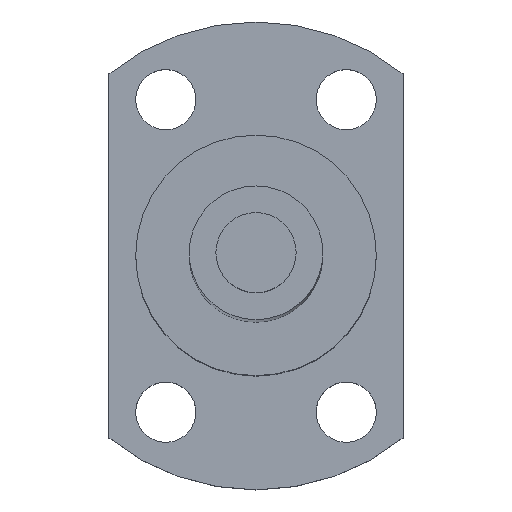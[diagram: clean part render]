
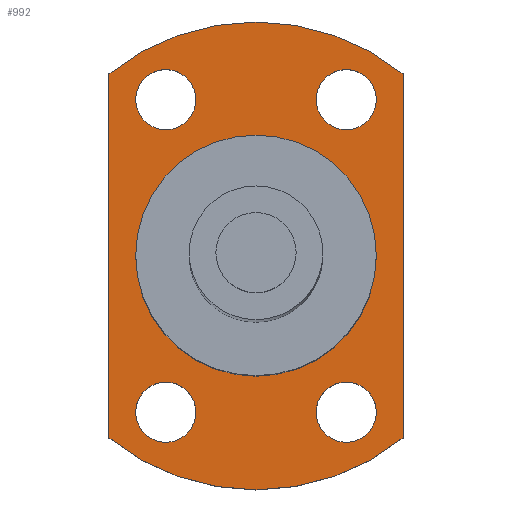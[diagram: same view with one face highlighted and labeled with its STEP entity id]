
A CAD part, top view. The second image highlights one B-rep face of the part: STEP entity #992.
In plain terms, the highlighted planar face has unit normal (0, 0, 1).
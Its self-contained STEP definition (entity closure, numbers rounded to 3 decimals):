
#219=CARTESIAN_POINT('',(6.75,11.691,165.));
#220=DIRECTION('',(0.,0.,-1.));
#221=DIRECTION('',(1.,0.,0.));
#222=AXIS2_PLACEMENT_3D('',#219,#220,#221);
#224=CARTESIAN_POINT('',(6.75,11.691,165.));
#225=DIRECTION('',(0.,0.,-1.));
#226=DIRECTION('',(-1.,0.,0.));
#227=AXIS2_PLACEMENT_3D('',#224,#225,#226);
#229=CARTESIAN_POINT('',(-6.75,11.691,165.));
#230=DIRECTION('',(0.,0.,-1.));
#231=DIRECTION('',(1.,0.,0.));
#232=AXIS2_PLACEMENT_3D('',#229,#230,#231);
#234=CARTESIAN_POINT('',(-6.75,11.691,165.));
#235=DIRECTION('',(0.,0.,-1.));
#236=DIRECTION('',(-1.,0.,0.));
#237=AXIS2_PLACEMENT_3D('',#234,#235,#236);
#239=CARTESIAN_POINT('',(6.75,-11.691,165.));
#240=DIRECTION('',(0.,0.,-1.));
#241=DIRECTION('',(1.,0.,0.));
#242=AXIS2_PLACEMENT_3D('',#239,#240,#241);
#244=CARTESIAN_POINT('',(6.75,-11.691,165.));
#245=DIRECTION('',(0.,0.,-1.));
#246=DIRECTION('',(-1.,0.,0.));
#247=AXIS2_PLACEMENT_3D('',#244,#245,#246);
#249=CARTESIAN_POINT('',(-6.75,-11.691,165.));
#250=DIRECTION('',(0.,0.,-1.));
#251=DIRECTION('',(1.,0.,0.));
#252=AXIS2_PLACEMENT_3D('',#249,#250,#251);
#254=CARTESIAN_POINT('',(-6.75,-11.691,165.));
#255=DIRECTION('',(0.,0.,-1.));
#256=DIRECTION('',(-1.,0.,0.));
#257=AXIS2_PLACEMENT_3D('',#254,#255,#256);
#259=CARTESIAN_POINT('',(0.,0.,165.));
#260=DIRECTION('',(0.,0.,1.));
#261=DIRECTION('',(0.629,0.778,0.));
#262=AXIS2_PLACEMENT_3D('',#259,#260,#261);
#264=DIRECTION('',(0.,1.,0.));
#265=VECTOR('',#264,27.221);
#266=CARTESIAN_POINT('',(11.,-13.611,165.));
#267=LINE('',#266,#265);
#268=CARTESIAN_POINT('',(0.,0.,165.));
#269=DIRECTION('',(0.,0.,1.));
#270=DIRECTION('',(-0.629,-0.778,0.));
#271=AXIS2_PLACEMENT_3D('',#268,#269,#270);
#273=DIRECTION('',(0.,-1.,0.));
#274=VECTOR('',#273,27.221);
#275=CARTESIAN_POINT('',(-11.,13.611,165.));
#276=LINE('',#275,#274);
#277=CARTESIAN_POINT('',(0.,0.,165.));
#278=DIRECTION('',(0.,0.,1.));
#279=DIRECTION('',(1.,0.,0.));
#280=AXIS2_PLACEMENT_3D('',#277,#278,#279);
#282=CARTESIAN_POINT('',(0.,0.,165.));
#283=DIRECTION('',(0.,0.,1.));
#284=DIRECTION('',(-1.,0.,0.));
#285=AXIS2_PLACEMENT_3D('',#282,#283,#284);
#573=CARTESIAN_POINT('',(9.,11.691,165.));
#574=CARTESIAN_POINT('',(4.5,11.691,165.));
#575=VERTEX_POINT('',#573);
#576=VERTEX_POINT('',#574);
#577=CARTESIAN_POINT('',(-4.5,11.691,165.));
#578=CARTESIAN_POINT('',(-9.,11.691,165.));
#579=VERTEX_POINT('',#577);
#580=VERTEX_POINT('',#578);
#581=CARTESIAN_POINT('',(9.,-11.691,165.));
#582=CARTESIAN_POINT('',(4.5,-11.691,165.));
#583=VERTEX_POINT('',#581);
#584=VERTEX_POINT('',#582);
#585=CARTESIAN_POINT('',(-4.5,-11.691,165.));
#586=CARTESIAN_POINT('',(-9.,-11.691,165.));
#587=VERTEX_POINT('',#585);
#588=VERTEX_POINT('',#586);
#589=CARTESIAN_POINT('',(-11.,13.611,165.));
#590=CARTESIAN_POINT('',(-11.,-13.611,165.));
#591=VERTEX_POINT('',#589);
#592=VERTEX_POINT('',#590);
#593=CARTESIAN_POINT('',(11.,-13.611,165.));
#594=CARTESIAN_POINT('',(11.,13.611,165.));
#595=VERTEX_POINT('',#593);
#596=VERTEX_POINT('',#594);
#605=CARTESIAN_POINT('',(9.,0.,165.));
#606=CARTESIAN_POINT('',(-9.,0.,165.));
#607=VERTEX_POINT('',#605);
#608=VERTEX_POINT('',#606);
#949=CARTESIAN_POINT('',(0.,0.,165.));
#950=DIRECTION('',(0.,0.,1.));
#951=DIRECTION('',(1.,0.,0.));
#952=AXIS2_PLACEMENT_3D('',#949,#950,#951);
#953=PLANE('',#952);
#955=ORIENTED_EDGE('',*,*,#954,.F.);
#957=ORIENTED_EDGE('',*,*,#956,.F.);
#959=ORIENTED_EDGE('',*,*,#958,.F.);
#961=ORIENTED_EDGE('',*,*,#960,.F.);
#962=EDGE_LOOP('',(#955,#957,#959,#961));
#963=FACE_OUTER_BOUND('',#962,.F.);
#964=ORIENTED_EDGE('',*,*,#929,.F.);
#965=ORIENTED_EDGE('',*,*,#943,.F.);
#966=EDGE_LOOP('',(#964,#965));
#967=FACE_BOUND('',#966,.F.);
#969=ORIENTED_EDGE('',*,*,#968,.F.);
#971=ORIENTED_EDGE('',*,*,#970,.F.);
#972=EDGE_LOOP('',(#969,#971));
#973=FACE_BOUND('',#972,.F.);
#975=ORIENTED_EDGE('',*,*,#974,.F.);
#977=ORIENTED_EDGE('',*,*,#976,.F.);
#978=EDGE_LOOP('',(#975,#977));
#979=FACE_BOUND('',#978,.F.);
#981=ORIENTED_EDGE('',*,*,#980,.F.);
#983=ORIENTED_EDGE('',*,*,#982,.F.);
#984=EDGE_LOOP('',(#981,#983));
#985=FACE_BOUND('',#984,.F.);
#987=ORIENTED_EDGE('',*,*,#986,.T.);
#989=ORIENTED_EDGE('',*,*,#988,.T.);
#990=EDGE_LOOP('',(#987,#989));
#991=FACE_BOUND('',#990,.F.);
#992=ADVANCED_FACE('',(#963,#967,#973,#979,#985,#991),#953,.T.);
#223=CIRCLE('',#222,2.25);
#228=CIRCLE('',#227,2.25);
#233=CIRCLE('',#232,2.25);
#238=CIRCLE('',#237,2.25);
#243=CIRCLE('',#242,2.25);
#248=CIRCLE('',#247,2.25);
#253=CIRCLE('',#252,2.25);
#258=CIRCLE('',#257,2.25);
#263=CIRCLE('',#262,17.5);
#272=CIRCLE('',#271,17.5);
#281=CIRCLE('',#280,9.);
#286=CIRCLE('',#285,9.);
#929=EDGE_CURVE('',#575,#576,#223,.T.);
#943=EDGE_CURVE('',#576,#575,#228,.T.);
#954=EDGE_CURVE('',#596,#591,#263,.T.);
#956=EDGE_CURVE('',#595,#596,#267,.T.);
#958=EDGE_CURVE('',#592,#595,#272,.T.);
#960=EDGE_CURVE('',#591,#592,#276,.T.);
#968=EDGE_CURVE('',#579,#580,#233,.T.);
#970=EDGE_CURVE('',#580,#579,#238,.T.);
#974=EDGE_CURVE('',#583,#584,#243,.T.);
#976=EDGE_CURVE('',#584,#583,#248,.T.);
#980=EDGE_CURVE('',#587,#588,#253,.T.);
#982=EDGE_CURVE('',#588,#587,#258,.T.);
#986=EDGE_CURVE('',#607,#608,#281,.T.);
#988=EDGE_CURVE('',#608,#607,#286,.T.);
